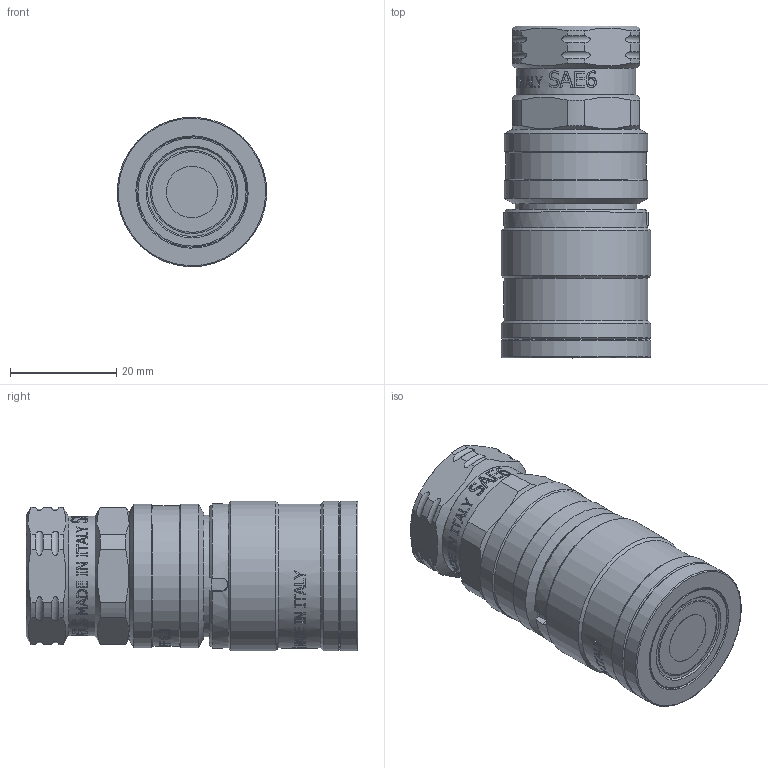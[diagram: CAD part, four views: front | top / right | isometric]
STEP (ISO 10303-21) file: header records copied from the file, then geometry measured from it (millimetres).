
FILE_DESCRIPTION(/* description */ (''),/* implementation_level */ '2;1');
FILE_NAME(/* name */ 'NC06S010001.stp',/* time_stamp */ '2024-11-22T14:49:23+01:00',/* author */ ('thomas.belotti'),/* organization */ (''),/* preprocessor_version */ 'ST-DEVELOPER v20',/* originating_system */ 'Autodesk Inventor 2024',/* authorisation */ '');
FILE_SCHEMA (('AUTOMOTIVE_DESIGN { 1 0 10303 214 3 1 1 }'));
Products named in the file (1): Parte2
Bounding box: 28.16 x 62.59 x 28.16 mm (x, y, z)
Volume: 32264.2 mm3; surface area: 7468.9 mm2
Topology: 1 solids, 1 shells, 1658 faces, 4727 edges, 3139 vertices
Faces by surface type: bspline 1094, plane 405, cylinder 125, cone 19, torus 15
Full cylindrical faces by diameter (mm): 9.7 x1, 12.9 x1, 13 x1, 20.4 x1, 20.8 x1, 22.5 x1, 23 x1, 26.5 x1, 27 x2, 27.2 x1, 28.2 x3
Entity records: 72452 total; most frequent: CARTESIAN_POINT 34829, ORIENTED_EDGE 9454, EDGE_CURVE 4727, DIRECTION 4102, VERTEX_POINT 3139, B_SPLINE_CURVE_WITH_KNOTS 2287, LINE 1852, VECTOR 1852
